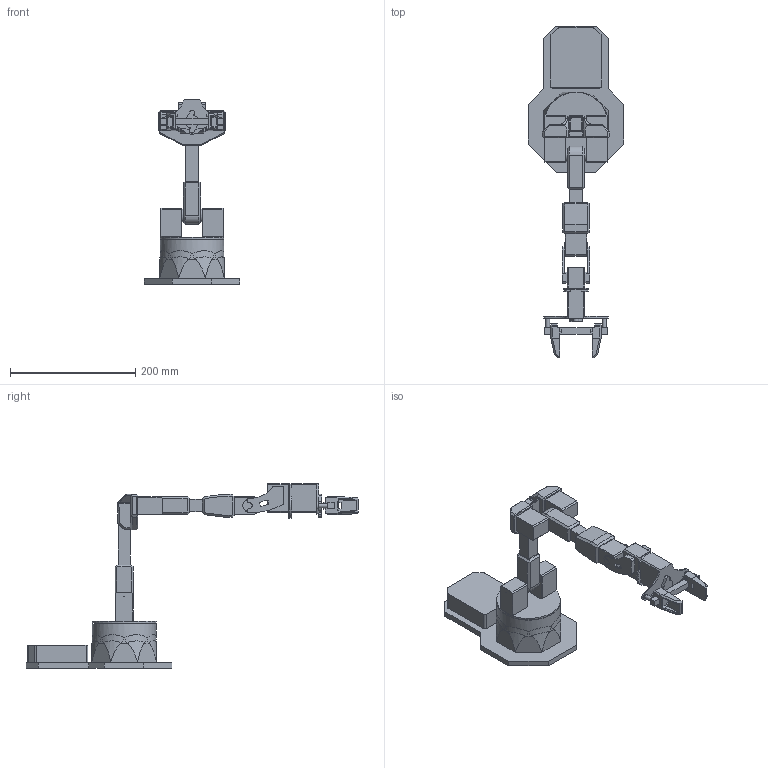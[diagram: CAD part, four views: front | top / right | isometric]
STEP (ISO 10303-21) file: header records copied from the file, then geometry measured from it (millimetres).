
FILE_DESCRIPTION(/* description */ (''),/* implementation_level */ '2;1');
FILE_NAME(/* name */ 'C:/Users/setup/Desktop/SOLIDS/2 - PXA-150-M/2 - PXA-150-M.step',/* time_stamp */ '2019-01-22T17:55:22-06:00',/* author */ ('wadecore'),/* organization */ (''),/* preprocessor_version */ 'ST-DEVELOPER v17.2',/* originating_system */ 'Autodesk Translation Framework v7.6.0.251',/* authorisation */ '');
FILE_SCHEMA (('AUTOMOTIVE_DESIGN { 1 0 10303 214 3 1 1 }'));
Length unit declared in the file: millimetre
Products named in the file (8): 2 - PXA-150-M; 430 Base; 430 Dual Shoulder; UA - 2 - PX-150; Fore - 2 - PX-150; 430 - Wrist; SRG; SRG Carriage With Finger
Assembly tree (8 placements, depth 2):
  2 - PXA-150-M
    430 Base
    430 Dual Shoulder
    UA - 2 - PX-150
    Fore - 2 - PX-150
    430 - Wrist
    SRG
    SRG Carriage With Finger  x2
Bounding box: 153.07 x 531.15 x 295.5 mm (x, y, z)
Volume: 1656262.6 mm3; surface area: 232154.7 mm2
Topology: 8 solids, 15 shells, 728 faces, 1843 edges, 1169 vertices
Faces by surface type: plane 536, cylinder 135, bspline 26, cone 22, sphere 6, torus 3
Full cylindrical faces by diameter (mm): 2.1 x4, 3.8 x4, 4.9 x2, 6.3 x2, 12 x2, 20.5 x6, 40 x1, 62 x1, 96 x1, 102 x1, 102.181 x1
Entity records: 20725 total; most frequent: CARTESIAN_POINT 4290, ORIENTED_EDGE 3372, DIRECTION 3298, EDGE_CURVE 1686, LINE 1274, VECTOR 1274, VERTEX_POINT 1065, AXIS2_PLACEMENT_3D 1012
